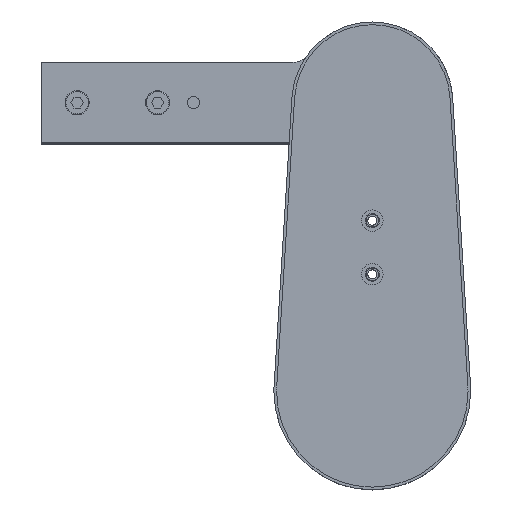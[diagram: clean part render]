
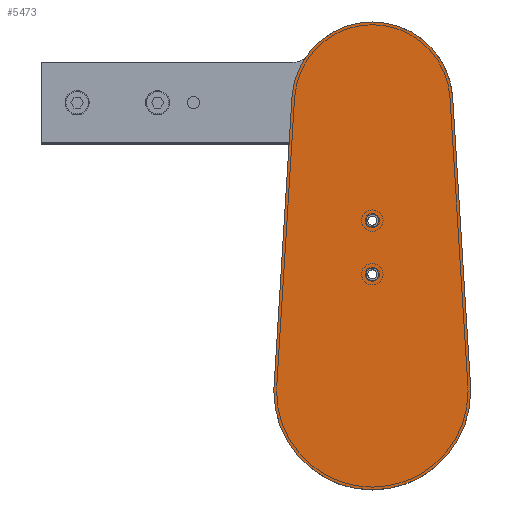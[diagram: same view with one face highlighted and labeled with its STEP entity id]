
A CAD part, top view. The second image highlights one B-rep face of the part: STEP entity #5473.
In plain terms, the highlighted planar face has unit normal (0, 0, 1) as drawn and (0, 0, -1) by its records, which use the part's own axes.
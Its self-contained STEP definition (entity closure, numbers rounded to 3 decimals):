
#270 = ORIENTED_EDGE ( 'NONE', *, *, #27217, .F. ) ;
#1666 = EDGE_LOOP ( 'NONE', ( #3409, #270, #47887, #75629, #79083, #34196 ) ) ;
#2620 = EDGE_LOOP ( 'NONE', ( #70153, #67933 ) ) ;
#2896 = DIRECTION ( 'NONE',  ( 1., 0., 0. ) ) ;
#3409 = ORIENTED_EDGE ( 'NONE', *, *, #46347, .F. ) ;
#3630 = VERTEX_POINT ( 'NONE', #52042 ) ;
#4016 = CARTESIAN_POINT ( 'NONE',  ( 44.914, 164.286, 0. ) ) ;
#4683 = AXIS2_PLACEMENT_3D ( 'NONE', #70564, #57934, #76907 ) ;
#5473 = ADVANCED_FACE ( 'NONE', ( #46329, #73865, #29542 ), #24720, .F. ) ;
#5964 = EDGE_CURVE ( 'NONE', #21662, #10448, #38320, .T. ) ;
#7067 = CARTESIAN_POINT ( 'NONE',  ( -44.914, 164.286, 0. ) ) ;
#7381 = DIRECTION ( 'NONE',  ( 0., 0., 1. ) ) ;
#7556 = VERTEX_POINT ( 'NONE', #12433 ) ;
#7921 = AXIS2_PLACEMENT_3D ( 'NONE', #55714, #30093, #68093 ) ;
#8450 = CARTESIAN_POINT ( 'NONE',  ( 0., 161.5, 0. ) ) ;
#9880 = CARTESIAN_POINT ( 'NONE',  ( -3.5, 65.5, 0. ) ) ;
#10092 = AXIS2_PLACEMENT_3D ( 'NONE', #46180, #20789, #71475 ) ;
#10448 = VERTEX_POINT ( 'NONE', #33811 ) ;
#12433 = CARTESIAN_POINT ( 'NONE',  ( -55., 0., 0. ) ) ;
#13151 = ORIENTED_EDGE ( 'NONE', *, *, #68016, .F. ) ;
#13461 = VECTOR ( 'NONE', #15935, 1000. ) ;
#15193 = CARTESIAN_POINT ( 'NONE',  ( 0., 65.5, 0. ) ) ;
#15935 = DIRECTION ( 'NONE',  ( -0.062, -0.998, 0. ) ) ;
#18372 = EDGE_CURVE ( 'NONE', #3630, #19656, #19576, .T. ) ;
#18758 = VERTEX_POINT ( 'NONE', #50089 ) ;
#19576 = CIRCLE ( 'NONE', #4683, 55. ) ;
#19656 = VERTEX_POINT ( 'NONE', #34286 ) ;
#19850 = DIRECTION ( 'NONE',  ( 0., 0., 1. ) ) ;
#19975 = VERTEX_POINT ( 'NONE', #55499 ) ;
#20789 = DIRECTION ( 'NONE',  ( 0., 0., 1. ) ) ;
#21175 = VERTEX_POINT ( 'NONE', #38695 ) ;
#21662 = VERTEX_POINT ( 'NONE', #9880 ) ;
#24720 = PLANE ( 'NONE',  #77549 ) ;
#25932 = DIRECTION ( 'NONE',  ( 1., 0., 0. ) ) ;
#26098 = CIRCLE ( 'NONE', #66415, 3.5 ) ;
#27217 = EDGE_CURVE ( 'NONE', #19656, #19975, #54077, .T. ) ;
#27580 = AXIS2_PLACEMENT_3D ( 'NONE', #41256, #54209, #28861 ) ;
#28861 = DIRECTION ( 'NONE',  ( 1., 0., 0. ) ) ;
#29542 = FACE_OUTER_BOUND ( 'NONE', #1666, .T. ) ;
#30093 = DIRECTION ( 'NONE',  ( 0., 0., -1. ) ) ;
#31178 = VERTEX_POINT ( 'NONE', #38736 ) ;
#31315 = CARTESIAN_POINT ( 'NONE',  ( 0., 161.5, 0. ) ) ;
#32812 = EDGE_CURVE ( 'NONE', #10448, #21662, #43993, .T. ) ;
#32856 = DIRECTION ( 'NONE',  ( 1., 0., 0. ) ) ;
#33811 = CARTESIAN_POINT ( 'NONE',  ( 3.5, 65.5, 0. ) ) ;
#34196 = ORIENTED_EDGE ( 'NONE', *, *, #61334, .F. ) ;
#34286 = CARTESIAN_POINT ( 'NONE',  ( 54.894, 3.406, 0. ) ) ;
#38320 = CIRCLE ( 'NONE', #57553, 3.5 ) ;
#38695 = CARTESIAN_POINT ( 'NONE',  ( 3.5, 95.5, 0. ) ) ;
#38736 = CARTESIAN_POINT ( 'NONE',  ( -3.5, 95.5, 0. ) ) ;
#40100 = CIRCLE ( 'NONE', #7921, 3.5 ) ;
#41256 = CARTESIAN_POINT ( 'NONE',  ( 0., 65.5, 0. ) ) ;
#42434 = AXIS2_PLACEMENT_3D ( 'NONE', #63456, #19850, #25932 ) ;
#42850 = CIRCLE ( 'NONE', #42434, 55. ) ;
#42972 = ORIENTED_EDGE ( 'NONE', *, *, #60959, .F. ) ;
#43993 = CIRCLE ( 'NONE', #27580, 3.5 ) ;
#46180 = CARTESIAN_POINT ( 'NONE',  ( 0., 0., 0. ) ) ;
#46329 = FACE_BOUND ( 'NONE', #46487, .T. ) ;
#46347 = EDGE_CURVE ( 'NONE', #19975, #53273, #54878, .T. ) ;
#46487 = EDGE_LOOP ( 'NONE', ( #42972, #13151 ) ) ;
#47887 = ORIENTED_EDGE ( 'NONE', *, *, #18372, .F. ) ;
#47944 = LINE ( 'NONE', #59305, #13461 ) ;
#50089 = CARTESIAN_POINT ( 'NONE',  ( -54.894, 3.406, 0. ) ) ;
#51872 = AXIS2_PLACEMENT_3D ( 'NONE', #8450, #7381, #58120 ) ;
#52042 = CARTESIAN_POINT ( 'NONE',  ( 55., 0., 0. ) ) ;
#53030 = DIRECTION ( 'NONE',  ( 0., 0., -1. ) ) ;
#53068 = VECTOR ( 'NONE', #80025, 1000. ) ;
#53273 = VERTEX_POINT ( 'NONE', #7067 ) ;
#54077 = LINE ( 'NONE', #4016, #53068 ) ;
#54209 = DIRECTION ( 'NONE',  ( 0., 0., -1. ) ) ;
#54878 = CIRCLE ( 'NONE', #51872, 45. ) ;
#55499 = CARTESIAN_POINT ( 'NONE',  ( 44.914, 164.286, 0. ) ) ;
#55714 = CARTESIAN_POINT ( 'NONE',  ( 0., 95.5, 0. ) ) ;
#55865 = DIRECTION ( 'NONE',  ( 0., 0., 1. ) ) ;
#56834 = EDGE_CURVE ( 'NONE', #7556, #3630, #42850, .T. ) ;
#57553 = AXIS2_PLACEMENT_3D ( 'NONE', #15193, #60174, #32856 ) ;
#57934 = DIRECTION ( 'NONE',  ( 0., 0., 1. ) ) ;
#58120 = DIRECTION ( 'NONE',  ( 1., 0., 0. ) ) ;
#58886 = CARTESIAN_POINT ( 'NONE',  ( 0., 95.5, 0. ) ) ;
#59305 = CARTESIAN_POINT ( 'NONE',  ( -44.914, 164.286, 0. ) ) ;
#60174 = DIRECTION ( 'NONE',  ( 0., 0., -1. ) ) ;
#60959 = EDGE_CURVE ( 'NONE', #21175, #31178, #40100, .T. ) ;
#61334 = EDGE_CURVE ( 'NONE', #53273, #18758, #47944, .T. ) ;
#63456 = CARTESIAN_POINT ( 'NONE',  ( 0., 0., 0. ) ) ;
#63997 = CIRCLE ( 'NONE', #10092, 55. ) ;
#66415 = AXIS2_PLACEMENT_3D ( 'NONE', #58886, #53030, #2896 ) ;
#67933 = ORIENTED_EDGE ( 'NONE', *, *, #5964, .F. ) ;
#68016 = EDGE_CURVE ( 'NONE', #31178, #21175, #26098, .T. ) ;
#68093 = DIRECTION ( 'NONE',  ( 1., 0., 0. ) ) ;
#70153 = ORIENTED_EDGE ( 'NONE', *, *, #32812, .F. ) ;
#70564 = CARTESIAN_POINT ( 'NONE',  ( 0., 0., 0. ) ) ;
#71475 = DIRECTION ( 'NONE',  ( 1., 0., 0. ) ) ;
#73865 = FACE_BOUND ( 'NONE', #2620, .T. ) ;
#75113 = DIRECTION ( 'NONE',  ( 1., 0., 0. ) ) ;
#75629 = ORIENTED_EDGE ( 'NONE', *, *, #56834, .F. ) ;
#76907 = DIRECTION ( 'NONE',  ( 1., 0., 0. ) ) ;
#77359 = EDGE_CURVE ( 'NONE', #18758, #7556, #63997, .T. ) ;
#77549 = AXIS2_PLACEMENT_3D ( 'NONE', #31315, #55865, #75113 ) ;
#79083 = ORIENTED_EDGE ( 'NONE', *, *, #77359, .F. ) ;
#80025 = DIRECTION ( 'NONE',  ( -0.062, 0.998, 0. ) ) ;
